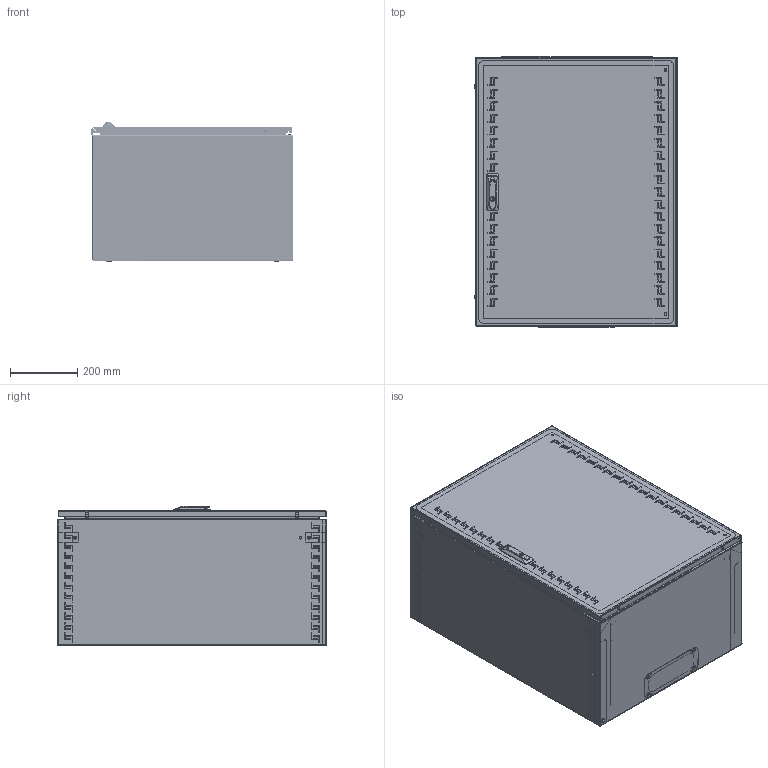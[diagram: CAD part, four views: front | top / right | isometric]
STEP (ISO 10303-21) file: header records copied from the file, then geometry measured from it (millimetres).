
FILE_DESCRIPTION (( 'STEP AP203' ), '1' );
FILE_NAME ('R5STI1640.STEP', '2019-07-16T11:55:09', ( '' ), ( '' ), 'SwSTEP 2.0', 'SolidWorks 2017', '' );
FILE_SCHEMA (( 'CONFIG_CONTROL_DESIGN' ));
Length unit declared in the file: millimetre
Products named in the file (39): MirrorRB.0374.00.01.0_-00 (400)<As Machined>; M6x10-A1100004_straight; RB.0374.05.00.0 捘_-02 (800x600); M4x8 GOST 17475-80 (DIN 965)_straight; Ì6õ12-A5100231_straight; MirrorMirrorRB.0374.00.01.0_-00 (400)<As Machined><As Machined>; Handle 308 Mesan; AC00C112; AC00C383; RB.0374.01.00.0 C縫-02 (800x600x400); AC00C380; RB.0374.06.00.0 捘_-02 (800x600); PF 7,5x15 door STI_0800x0600; AC00C061_AC00C061; RB.0374.03.01.0; R5STI1640; RB.0374.00.01.0_-00 (400); Handle Mesan (part 1); M6-DIN 6923 (CM100600)_straight; RB.0374.03.00.0 CÁ; RB.0374.00.02.0_-02 (16U); Handle Mesan (part 2); RB.0374.02.00.0 C縫-02 (800x600x400); RB.0374.04.01.0; RB.0374.00.02.0 mirror_-06 (16U); Catch Mesan; RB.0374.05.01.0_-02 (800x600); RB.0374.04.00.0 CÁ; RB.0374.01.01.0_-02 (800x600x400); M6x12-DIN 6921_stright; Handle Mesan (part 3); AC00C398; RB.0048.02.01.0; RB.0374.01.02.0_-02 (800x600); AC00C401_AC00C401; 4.8x13 DIN 7981 (R5A07)_straight; Ì6õ12-A5100231_thread; AC00C399; Ì6õ20-A5100001_straight
Assembly tree (100 placements, depth 4):
  R5STI1640
    RB.0374.02.00.0 C縫-02 (800x600x400)
      RB.0374.01.00.0 C縫-02 (800x600x400)
        RB.0374.01.01.0_-02 (800x600x400)
        RB.0374.01.02.0_-02 (800x600)
        Ì6õ20-A5100001_straight  x4
        Ì6õ12-A5100231_straight  x6
      RB.0374.03.00.0 CÁ
        RB.0374.03.01.0
        Ì6õ12-A5100231_straight  x4
      RB.0374.04.00.0 CÁ  x2
        RB.0374.04.01.0
        Ì6õ12-A5100231_straight
      RB.0048.02.01.0  x2
      AC00C399  x2
      M4x8 GOST 17475-80 (DIN 965)_straight  x4
      AC00C383  x2
      AC00C061_AC00C061  x2
      M6-DIN 6923 (CM100600)_straight  x12
    RB.0374.06.00.0 捘_-02 (800x600)
      RB.0374.05.00.0 捘_-02 (800x600)
        RB.0374.05.01.0_-02 (800x600)
        AC00C398  x2
        Ì6õ12-A5100231_straight
        Ì6õ12-A5100231_thread
      AC00C112  x4
      AC00C061_AC00C061  x2
      PF 7,5x15 door STI_0800x0600
      Handle 308 Mesan
        Handle Mesan (part 1)
        Handle Mesan (part 2)
        Catch Mesan
        Handle Mesan (part 3)
        4.8x13 DIN 7981 (R5A07)_straight  x3
        M6x10-A1100004_straight
    RB.0374.00.01.0_-00 (400)
    RB.0374.00.02.0_-02 (16U)
    RB.0374.00.02.0 mirror_-06 (16U)
    M6x12-DIN 6921_stright  x4
    M6-DIN 6923 (CM100600)_straight  x12
    AC00C401_AC00C401  x2
    MirrorRB.0374.00.01.0_-00 (400)<As Machined>  x2
    MirrorMirrorRB.0374.00.01.0_-00 (400)<As Machined><As Machined>
    AC00C380  x2
Bounding box: 603.87 x 803 x 414.97 mm (x, y, z)
Volume: 3503511.1 mm3; surface area: 5007906.5 mm2
Topology: 140 solids, 140 shells, 6454 faces, 16876 edges, 10838 vertices
Faces by surface type: plane 3775, cylinder 1116, bspline 884, cone 479, torus 174, sphere 26
Entity records: 247978 total; most frequent: CARTESIAN_POINT 123110, ORIENTED_EDGE 26292, DIRECTION 21145, EDGE_CURVE 13146, VECTOR 9587, LINE 9587, VERTEX_POINT 8579, EDGE_LOOP 6117
